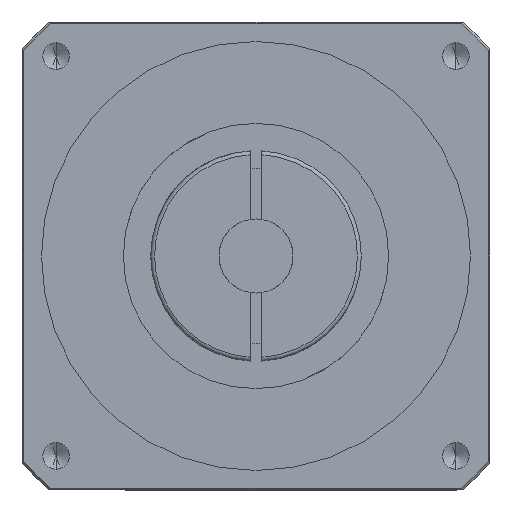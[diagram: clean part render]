
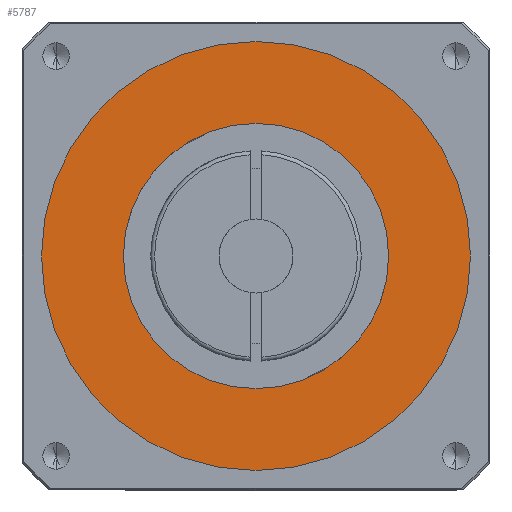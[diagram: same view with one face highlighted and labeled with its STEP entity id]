
A CAD part, front view. The second image highlights one B-rep face of the part: STEP entity #5787.
In plain terms, the highlighted planar face has unit normal (0, -1, 0).
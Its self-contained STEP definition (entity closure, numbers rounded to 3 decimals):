
#93 = CARTESIAN_POINT ( 'NONE',  ( 0., -104.2, 0. ) ) ;
#94 = DIRECTION ( 'NONE',  ( 0., 1., 0. ) ) ;
#95 = DIRECTION ( 'NONE',  ( 0., 0., -1. ) ) ;
#657 = ORIENTED_EDGE ( 'NONE', *, *, #1146, .T. ) ;
#658 = ORIENTED_EDGE ( 'NONE', *, *, #5453, .T. ) ;
#659 = ORIENTED_EDGE ( 'NONE', *, *, #974, .T. ) ;
#660 = ORIENTED_EDGE ( 'NONE', *, *, #1106, .T. ) ;
#844 = AXIS2_PLACEMENT_3D ( 'NONE', #4548, #4549, #4550 ) ;
#886 = AXIS2_PLACEMENT_3D ( 'NONE', #93, #94, #95 ) ;
#905 = AXIS2_PLACEMENT_3D ( 'NONE', #7511, #7512, #7513 ) ;
#974 = EDGE_CURVE ( 'NONE', #2586, #2587, #6133, .T. ) ;
#1106 = EDGE_CURVE ( 'NONE', #2587, #2586, #6279, .T. ) ;
#1146 = EDGE_CURVE ( 'NONE', #2535, #2534, #6328, .T. ) ;
#1573 = AXIS2_PLACEMENT_3D ( 'NONE', #5025, #5026, #5027 ) ;
#1652 = AXIS2_PLACEMENT_3D ( 'NONE', #3850, #3861, #3863 ) ;
#2534 = VERTEX_POINT ( 'NONE', #3947 ) ;
#2535 = VERTEX_POINT ( 'NONE', #3949 ) ;
#2586 = VERTEX_POINT ( 'NONE', #4040 ) ;
#2587 = VERTEX_POINT ( 'NONE', #4042 ) ;
#3014 = EDGE_LOOP ( 'NONE', ( #659, #660 ) ) ;
#3031 = EDGE_LOOP ( 'NONE', ( #657, #658 ) ) ;
#3850 = CARTESIAN_POINT ( 'NONE',  ( 0., -104.2, 0. ) ) ;
#3857 = PLANE ( 'NONE',  #1652 ) ;
#3861 = DIRECTION ( 'NONE',  ( 0., -1., 0. ) ) ;
#3863 = DIRECTION ( 'NONE',  ( 0., 0., -1. ) ) ;
#3947 = CARTESIAN_POINT ( 'NONE',  ( 0., -104.2, 55. ) ) ;
#3949 = CARTESIAN_POINT ( 'NONE',  ( 0., -104.2, -55. ) ) ;
#4040 = CARTESIAN_POINT ( 'NONE',  ( 0., -104.2, -34. ) ) ;
#4042 = CARTESIAN_POINT ( 'NONE',  ( 0., -104.2, 34. ) ) ;
#4548 = CARTESIAN_POINT ( 'NONE',  ( 0., -104.2, 0. ) ) ;
#4549 = DIRECTION ( 'NONE',  ( 0., 1., 0. ) ) ;
#4550 = DIRECTION ( 'NONE',  ( 0., 0., -1. ) ) ;
#5025 = CARTESIAN_POINT ( 'NONE',  ( 0., -104.2, 0. ) ) ;
#5026 = DIRECTION ( 'NONE',  ( 0., -1., 0. ) ) ;
#5027 = DIRECTION ( 'NONE',  ( 0., 0., -1. ) ) ;
#5453 = EDGE_CURVE ( 'NONE', #2534, #2535, #6812, .T. ) ;
#5787 = ADVANCED_FACE ( 'NONE', ( #6966, #6974 ), #3857, .T. ) ;
#6133 = CIRCLE ( 'NONE', #844, 34. ) ;
#6279 = CIRCLE ( 'NONE', #886, 34. ) ;
#6328 = CIRCLE ( 'NONE', #905, 55. ) ;
#6812 = CIRCLE ( 'NONE', #1573, 55. ) ;
#6966 = FACE_OUTER_BOUND ( 'NONE', #3031, .T. ) ;
#6974 = FACE_BOUND ( 'NONE', #3014, .T. ) ;
#7511 = CARTESIAN_POINT ( 'NONE',  ( 0., -104.2, 0. ) ) ;
#7512 = DIRECTION ( 'NONE',  ( 0., -1., 0. ) ) ;
#7513 = DIRECTION ( 'NONE',  ( 0., 0., -1. ) ) ;
